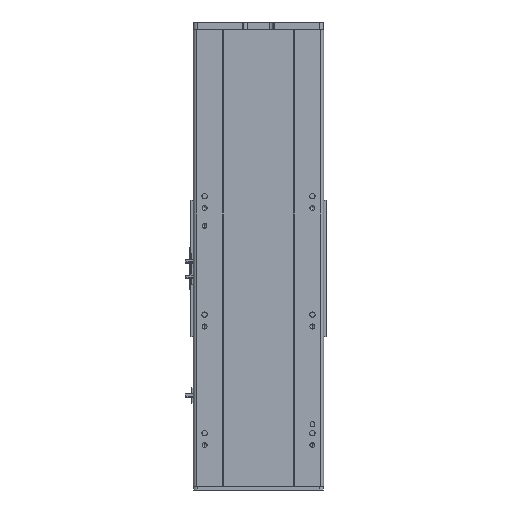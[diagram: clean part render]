
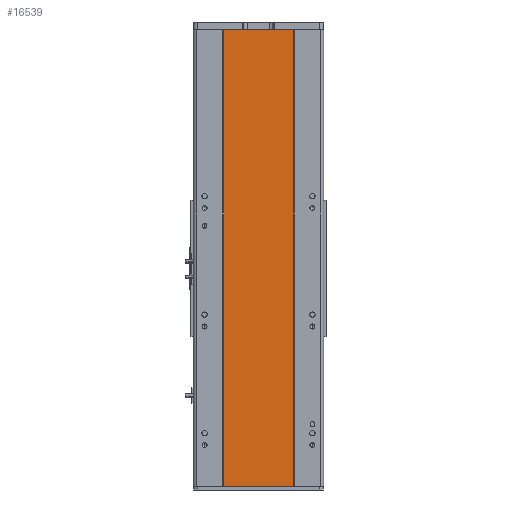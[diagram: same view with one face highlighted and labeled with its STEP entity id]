
A CAD part, front view. The second image highlights one B-rep face of the part: STEP entity #16539.
In plain terms, the highlighted planar face has unit normal (0, -1, 0).
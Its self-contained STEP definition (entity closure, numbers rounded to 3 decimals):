
#450 = ORIENTED_EDGE ( 'NONE', *, *, #17627, .T. ) ;
#564 = CARTESIAN_POINT ( 'NONE',  ( 59., 1., 385.5 ) ) ;
#681 = DIRECTION ( 'NONE',  ( 0., 0., -1. ) ) ;
#1644 = LINE ( 'NONE', #9804, #12468 ) ;
#4022 = DIRECTION ( 'NONE',  ( 1., 0., 0. ) ) ;
#4587 = DIRECTION ( 'NONE',  ( 0., 1., 0. ) ) ;
#4825 = DIRECTION ( 'NONE',  ( -1., 0., 0. ) ) ;
#7764 = PLANE ( 'NONE',  #20253 ) ;
#8778 = VERTEX_POINT ( 'NONE', #10653 ) ;
#9804 = CARTESIAN_POINT ( 'NONE',  ( -59., 1., 385.5 ) ) ;
#9939 = LINE ( 'NONE', #564, #22854 ) ;
#10608 = VERTEX_POINT ( 'NONE', #21827 ) ;
#10634 = LINE ( 'NONE', #25899, #18785 ) ;
#10653 = CARTESIAN_POINT ( 'NONE',  ( 59., 1., -385.5 ) ) ;
#11948 = VERTEX_POINT ( 'NONE', #35180 ) ;
#12468 = VECTOR ( 'NONE', #31769, 1000. ) ;
#12740 = EDGE_CURVE ( 'NONE', #10608, #11948, #10634, .T. ) ;
#13073 = EDGE_LOOP ( 'NONE', ( #450, #18471, #17444, #20932 ) ) ;
#14641 = VECTOR ( 'NONE', #20022, 1000. ) ;
#16539 = ADVANCED_FACE ( 'NONE', ( #19370 ), #7764, .F. ) ;
#17444 = ORIENTED_EDGE ( 'NONE', *, *, #12740, .F. ) ;
#17627 = EDGE_CURVE ( 'NONE', #23873, #8778, #21931, .T. ) ;
#17707 = EDGE_CURVE ( 'NONE', #10608, #23873, #1644, .T. ) ;
#18471 = ORIENTED_EDGE ( 'NONE', *, *, #26417, .F. ) ;
#18785 = VECTOR ( 'NONE', #4022, 1000. ) ;
#19370 = FACE_OUTER_BOUND ( 'NONE', #13073, .T. ) ;
#20022 = DIRECTION ( 'NONE',  ( 1., 0., 0. ) ) ;
#20253 = AXIS2_PLACEMENT_3D ( 'NONE', #21458, #4587, #4825 ) ;
#20932 = ORIENTED_EDGE ( 'NONE', *, *, #17707, .T. ) ;
#21458 = CARTESIAN_POINT ( 'NONE',  ( -59., 1., 385.5 ) ) ;
#21827 = CARTESIAN_POINT ( 'NONE',  ( -59., 1., 385.5 ) ) ;
#21931 = LINE ( 'NONE', #25745, #14641 ) ;
#22854 = VECTOR ( 'NONE', #681, 1000. ) ;
#23873 = VERTEX_POINT ( 'NONE', #26626 ) ;
#25745 = CARTESIAN_POINT ( 'NONE',  ( -59., 1., -385.5 ) ) ;
#25899 = CARTESIAN_POINT ( 'NONE',  ( -59., 1., 385.5 ) ) ;
#26417 = EDGE_CURVE ( 'NONE', #11948, #8778, #9939, .T. ) ;
#26626 = CARTESIAN_POINT ( 'NONE',  ( -59., 1., -385.5 ) ) ;
#31769 = DIRECTION ( 'NONE',  ( 0., 0., -1. ) ) ;
#35180 = CARTESIAN_POINT ( 'NONE',  ( 59., 1., 385.5 ) ) ;
